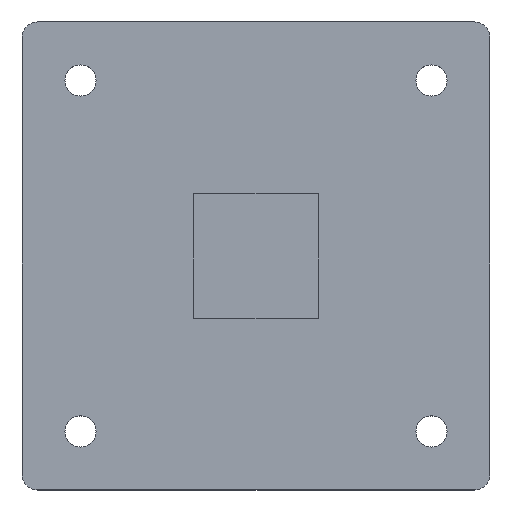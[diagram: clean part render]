
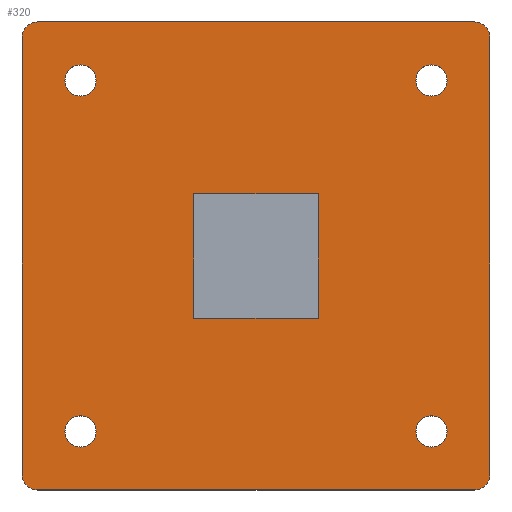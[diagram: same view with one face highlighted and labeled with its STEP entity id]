
A CAD part, top view. The second image highlights one B-rep face of the part: STEP entity #320.
In plain terms, the highlighted planar face has unit normal (0, 0, 1).
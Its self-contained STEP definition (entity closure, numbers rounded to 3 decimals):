
#266 = EDGE_CURVE( '', #662, #334, #732, .T. );
#278 = VERTEX_POINT( '', #744 );
#280 = EDGE_CURVE( '', #404, #568, #746, .T. );
#296 = VERTEX_POINT( '', #765 );
#300 = VERTEX_POINT( '', #769 );
#306 = EDGE_CURVE( '', #472, #456, #776, .T. );
#312 = EDGE_CURVE( '', #448, #316, #783, .T. );
#316 = VERTEX_POINT( '', #787 );
#320 = ADVANCED_FACE( '', ( #791, #792, #793, #794, #795, #796 ), #797, .T. );
#326 = EDGE_CURVE( '', #480, #278, #803, .T. );
#334 = VERTEX_POINT( '', #811 );
#392 = VERTEX_POINT( '', #880 );
#404 = VERTEX_POINT( '', #895 );
#426 = EDGE_CURVE( '', #446, #392, #920, .T. );
#436 = EDGE_CURVE( '', #392, #446, #931, .T. );
#446 = VERTEX_POINT( '', #941 );
#448 = VERTEX_POINT( '', #943 );
#456 = VERTEX_POINT( '', #951 );
#468 = EDGE_CURVE( '', #316, #404, #964, .T. );
#472 = VERTEX_POINT( '', #968 );
#474 = EDGE_CURVE( '', #456, #300, #970, .T. );
#480 = VERTEX_POINT( '', #977 );
#482 = EDGE_CURVE( '', #544, #296, #979, .T. );
#486 = VERTEX_POINT( '', #983 );
#532 = VERTEX_POINT( '', #1035 );
#540 = EDGE_CURVE( '', #334, #662, #1044, .T. );
#544 = VERTEX_POINT( '', #1050 );
#568 = VERTEX_POINT( '', #1074 );
#590 = EDGE_CURVE( '', #644, #486, #1099, .T. );
#598 = EDGE_CURVE( '', #568, #448, #1107, .T. );
#602 = EDGE_CURVE( '', #486, #532, #1111, .T. );
#610 = VERTEX_POINT( '', #1120 );
#612 = EDGE_CURVE( '', #610, #472, #1122, .T. );
#624 = EDGE_CURVE( '', #688, #610, #1141, .T. );
#644 = VERTEX_POINT( '', #1162 );
#654 = EDGE_CURVE( '', #532, #688, #1172, .T. );
#662 = VERTEX_POINT( '', #1180 );
#666 = EDGE_CURVE( '', #278, #480, #1184, .T. );
#668 = EDGE_CURVE( '', #296, #544, #1186, .T. );
#688 = VERTEX_POINT( '', #1207 );
#694 = EDGE_CURVE( '', #300, #644, #1214, .T. );
#732 = CIRCLE( '', #1252, 2. );
#744 = CARTESIAN_POINT( '', ( 20.5, 22.5, 0. ) );
#746 = LINE( '', #1273, #1274 );
#765 = CARTESIAN_POINT( '', ( -20.5, -22.5, 0. ) );
#769 = CARTESIAN_POINT( '', ( 28., -30., 0. ) );
#776 = LINE( '', #1312, #1313 );
#783 = LINE( '', #1323, #1324 );
#787 = CARTESIAN_POINT( '', ( -8., 8., 0. ) );
#791 = FACE_BOUND( '', #1336, .T. );
#792 = FACE_OUTER_BOUND( '', #1337, .T. );
#793 = FACE_BOUND( '', #1338, .T. );
#794 = FACE_BOUND( '', #1339, .T. );
#795 = FACE_BOUND( '', #1340, .T. );
#796 = FACE_BOUND( '', #1341, .T. );
#797 = PLANE( '', #1342 );
#803 = CIRCLE( '', #1351, 2. );
#811 = CARTESIAN_POINT( '', ( 20.5, -22.5, 0. ) );
#880 = CARTESIAN_POINT( '', ( -20.5, 22.5, 0. ) );
#895 = CARTESIAN_POINT( '', ( 8., 8., 0. ) );
#920 = CIRCLE( '', #1498, 2. );
#931 = CIRCLE( '', #1513, 2. );
#941 = CARTESIAN_POINT( '', ( -24.5, 22.5, 0. ) );
#943 = CARTESIAN_POINT( '', ( -8., -8., 0. ) );
#951 = CARTESIAN_POINT( '', ( 30., -28., 0. ) );
#964 = LINE( '', #1557, #1558 );
#968 = CARTESIAN_POINT( '', ( 30., 28., 0. ) );
#970 = CIRCLE( '', #1567, 2. );
#977 = CARTESIAN_POINT( '', ( 24.5, 22.5, 0. ) );
#979 = CIRCLE( '', #1577, 2. );
#983 = CARTESIAN_POINT( '', ( -30., -28., 0. ) );
#1035 = CARTESIAN_POINT( '', ( -30., 28., 0. ) );
#1044 = CIRCLE( '', #1662, 2. );
#1050 = CARTESIAN_POINT( '', ( -24.5, -22.5, 0. ) );
#1074 = CARTESIAN_POINT( '', ( 8., -8., 0. ) );
#1099 = CIRCLE( '', #1739, 2. );
#1107 = LINE( '', #1752, #1753 );
#1111 = LINE( '', #1760, #1761 );
#1120 = CARTESIAN_POINT( '', ( 28., 30., 0. ) );
#1122 = CIRCLE( '', #1777, 2. );
#1141 = LINE( '', #1801, #1802 );
#1162 = CARTESIAN_POINT( '', ( -28., -30., 0. ) );
#1172 = CIRCLE( '', #1848, 2. );
#1180 = CARTESIAN_POINT( '', ( 24.5, -22.5, 0. ) );
#1184 = CIRCLE( '', #1869, 2. );
#1186 = CIRCLE( '', #1872, 2. );
#1207 = CARTESIAN_POINT( '', ( -28., 30., 0. ) );
#1214 = LINE( '', #1914, #1915 );
#1252 = AXIS2_PLACEMENT_3D( '', #1940, #1941, #1942 );
#1273 = CARTESIAN_POINT( '', ( 8., 4., 0. ) );
#1274 = VECTOR( '', #1946, 1. );
#1312 = CARTESIAN_POINT( '', ( 30., -28., 0. ) );
#1313 = VECTOR( '', #1985, 1. );
#1323 = CARTESIAN_POINT( '', ( -8., -4., 0. ) );
#1324 = VECTOR( '', #1995, 1. );
#1336 = EDGE_LOOP( '', ( #1999, #2000, #2001, #2002 ) );
#1337 = EDGE_LOOP( '', ( #2003, #2004, #2005, #2006, #2007, #2008, #2009, #2010 ) );
#1338 = EDGE_LOOP( '', ( #2011, #2012 ) );
#1339 = EDGE_LOOP( '', ( #2013, #2014 ) );
#1340 = EDGE_LOOP( '', ( #2015, #2016 ) );
#1341 = EDGE_LOOP( '', ( #2017, #2018 ) );
#1342 = AXIS2_PLACEMENT_3D( '', #2019, #2020, #2021 );
#1351 = AXIS2_PLACEMENT_3D( '', #2023, #2024, #2025 );
#1498 = AXIS2_PLACEMENT_3D( '', #2175, #2176, #2177 );
#1513 = AXIS2_PLACEMENT_3D( '', #2190, #2191, #2192 );
#1557 = CARTESIAN_POINT( '', ( -4., 8., 0. ) );
#1558 = VECTOR( '', #2211, 1. );
#1567 = AXIS2_PLACEMENT_3D( '', #2213, #2214, #2215 );
#1577 = AXIS2_PLACEMENT_3D( '', #2224, #2225, #2226 );
#1662 = AXIS2_PLACEMENT_3D( '', #2300, #2301, #2302 );
#1739 = AXIS2_PLACEMENT_3D( '', #2348, #2349, #2350 );
#1752 = CARTESIAN_POINT( '', ( 4., -8., 0. ) );
#1753 = VECTOR( '', #2353, 1. );
#1760 = CARTESIAN_POINT( '', ( -30., 28., 0. ) );
#1761 = VECTOR( '', #2355, 1. );
#1777 = AXIS2_PLACEMENT_3D( '', #2366, #2367, #2368 );
#1801 = CARTESIAN_POINT( '', ( 28., 30., 0. ) );
#1802 = VECTOR( '', #2403, 1. );
#1848 = AXIS2_PLACEMENT_3D( '', #2423, #2424, #2425 );
#1869 = AXIS2_PLACEMENT_3D( '', #2430, #2431, #2432 );
#1872 = AXIS2_PLACEMENT_3D( '', #2433, #2434, #2435 );
#1914 = CARTESIAN_POINT( '', ( -28., -30., 0. ) );
#1915 = VECTOR( '', #2461, 1. );
#1940 = CARTESIAN_POINT( '', ( 22.5, -22.5, 0. ) );
#1941 = DIRECTION( '', ( 0., 0., 1. ) );
#1942 = DIRECTION( '', ( 1., 0., 0. ) );
#1946 = DIRECTION( '', ( 0., -1., 0. ) );
#1985 = DIRECTION( '', ( 0., -1., 0. ) );
#1995 = DIRECTION( '', ( 0., 1., 0. ) );
#1999 = ORIENTED_EDGE( '', *, *, #468, .T. );
#2000 = ORIENTED_EDGE( '', *, *, #280, .T. );
#2001 = ORIENTED_EDGE( '', *, *, #598, .T. );
#2002 = ORIENTED_EDGE( '', *, *, #312, .T. );
#2003 = ORIENTED_EDGE( '', *, *, #602, .F. );
#2004 = ORIENTED_EDGE( '', *, *, #590, .F. );
#2005 = ORIENTED_EDGE( '', *, *, #694, .F. );
#2006 = ORIENTED_EDGE( '', *, *, #474, .F. );
#2007 = ORIENTED_EDGE( '', *, *, #306, .F. );
#2008 = ORIENTED_EDGE( '', *, *, #612, .F. );
#2009 = ORIENTED_EDGE( '', *, *, #624, .F. );
#2010 = ORIENTED_EDGE( '', *, *, #654, .F. );
#2011 = ORIENTED_EDGE( '', *, *, #266, .F. );
#2012 = ORIENTED_EDGE( '', *, *, #540, .F. );
#2013 = ORIENTED_EDGE( '', *, *, #326, .F. );
#2014 = ORIENTED_EDGE( '', *, *, #666, .F. );
#2015 = ORIENTED_EDGE( '', *, *, #668, .F. );
#2016 = ORIENTED_EDGE( '', *, *, #482, .F. );
#2017 = ORIENTED_EDGE( '', *, *, #436, .F. );
#2018 = ORIENTED_EDGE( '', *, *, #426, .F. );
#2019 = CARTESIAN_POINT( '', ( 0., 0., 0. ) );
#2020 = DIRECTION( '', ( 0., 0., 1. ) );
#2021 = DIRECTION( '', ( 1., 0., 0. ) );
#2023 = CARTESIAN_POINT( '', ( 22.5, 22.5, 0. ) );
#2024 = DIRECTION( '', ( 0., 0., 1. ) );
#2025 = DIRECTION( '', ( 1., 0., 0. ) );
#2175 = CARTESIAN_POINT( '', ( -22.5, 22.5, 0. ) );
#2176 = DIRECTION( '', ( 0., 0., 1. ) );
#2177 = DIRECTION( '', ( 1., 0., 0. ) );
#2190 = CARTESIAN_POINT( '', ( -22.5, 22.5, 0. ) );
#2191 = DIRECTION( '', ( 0., 0., 1. ) );
#2192 = DIRECTION( '', ( 1., 0., 0. ) );
#2211 = DIRECTION( '', ( 1., 0., 0. ) );
#2213 = CARTESIAN_POINT( '', ( 28., -28., 0. ) );
#2214 = DIRECTION( '', ( 0., 0., -1. ) );
#2215 = DIRECTION( '', ( 0., -1., 0. ) );
#2224 = CARTESIAN_POINT( '', ( -22.5, -22.5, 0. ) );
#2225 = DIRECTION( '', ( 0., 0., 1. ) );
#2226 = DIRECTION( '', ( 1., 0., 0. ) );
#2300 = CARTESIAN_POINT( '', ( 22.5, -22.5, 0. ) );
#2301 = DIRECTION( '', ( 0., 0., 1. ) );
#2302 = DIRECTION( '', ( 1., 0., 0. ) );
#2348 = CARTESIAN_POINT( '', ( -28., -28., 0. ) );
#2349 = DIRECTION( '', ( 0., 0., -1. ) );
#2350 = DIRECTION( '', ( -1., 0., 0. ) );
#2353 = DIRECTION( '', ( -1., 0., 0. ) );
#2355 = DIRECTION( '', ( 0., 1., 0. ) );
#2366 = CARTESIAN_POINT( '', ( 28., 28., 0. ) );
#2367 = DIRECTION( '', ( 0., 0., -1. ) );
#2368 = DIRECTION( '', ( 1., 0., 0. ) );
#2403 = DIRECTION( '', ( 1., 0., 0. ) );
#2423 = CARTESIAN_POINT( '', ( -28., 28., 0. ) );
#2424 = DIRECTION( '', ( 0., 0., -1. ) );
#2425 = DIRECTION( '', ( 0., 1., 0. ) );
#2430 = CARTESIAN_POINT( '', ( 22.5, 22.5, 0. ) );
#2431 = DIRECTION( '', ( 0., 0., 1. ) );
#2432 = DIRECTION( '', ( 1., 0., 0. ) );
#2433 = CARTESIAN_POINT( '', ( -22.5, -22.5, 0. ) );
#2434 = DIRECTION( '', ( 0., 0., 1. ) );
#2435 = DIRECTION( '', ( 1., 0., 0. ) );
#2461 = DIRECTION( '', ( -1., 0., 0. ) );
